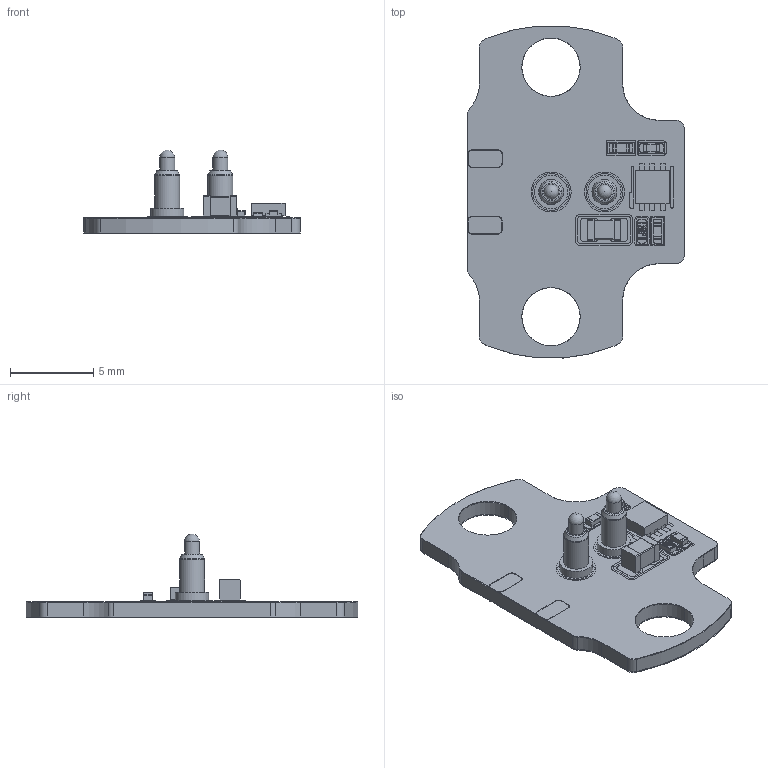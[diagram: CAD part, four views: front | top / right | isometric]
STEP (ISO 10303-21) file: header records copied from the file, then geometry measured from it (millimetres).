
FILE_DESCRIPTION(('KiCad electronic assembly'),'2;1');
FILE_NAME('OMI-Charger.step','2025-04-18T14:22:15',('Pcbnew'),('Kicad'), 'Open CASCADE STEP processor 7.8','KiCad to STEP converter','Unknown' );
FILE_SCHEMA(('AUTOMOTIVE_DESIGN { 1 0 10303 214 1 1 1 1 }'));
Length unit declared in the file: millimetre
Products named in the file (21): OMI-Charger 1; R_0402_1005Metric; C_0805_2012Metric; C_0402_1005Metric; ESD0402; POGOPIN1_2.3X2.3X4MM v1; DRV6-0.65-8x8x0.8; BODY-SON; FRAME-DRV0006A; SOLID; PIN1-ID; OMI-Charger_pad; OMI-Charger_silkscreen; OMI-Charger_soldermask; OMI-Charger_PCB
Assembly tree (22 placements, depth 4):
  OMI-Charger 1
    R_0402_1005Metric  x2
    C_0805_2012Metric
    C_0402_1005Metric
    ESD0402
    POGOPIN1_2.3X2.3X4MM v1  x2
    DRV6-0.65-8x8x0.8
      BODY-SON
      FRAME-DRV0006A
        SOLID
        SOLID
        SOLID
        SOLID
        SOLID
        SOLID
        SOLID
      PIN1-ID
    OMI-Charger_pad
    OMI-Charger_silkscreen
    OMI-Charger_soldermask
    OMI-Charger_PCB
Bounding box: 13 x 19.95 x 5.04 mm (x, y, z)
Volume: 189.9 mm3; surface area: 959.6 mm2
Topology: 43 solids, 56 shells, 655 faces, 1973 edges, 1431 vertices
Faces by surface type: plane 434, cylinder 157, bspline 54, cone 4, torus 4, sphere 2
Full cylindrical faces by diameter (mm): 0.25 x1, 0.7 x2, 0.8 x6, 0.85 x3, 0.9 x2, 1.5 x6, 2 x2
Entity records: 25627 total; most frequent: CARTESIAN_POINT 7201, DIRECTION 3355, ORIENTED_EDGE 3347, EDGE_CURVE 1873, VERTEX_POINT 1369, LINE 1357, VECTOR 1357, AXIS2_PLACEMENT_3D 999
